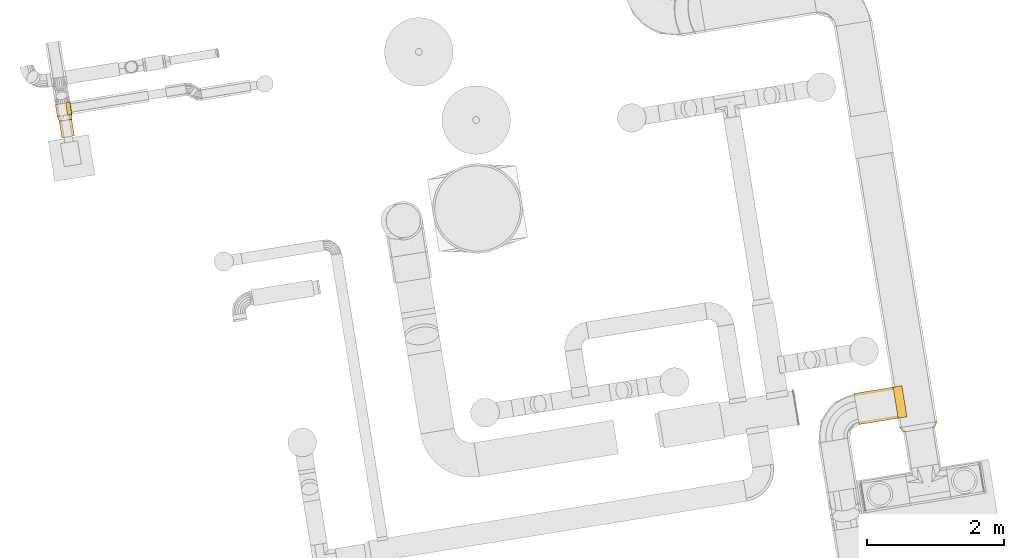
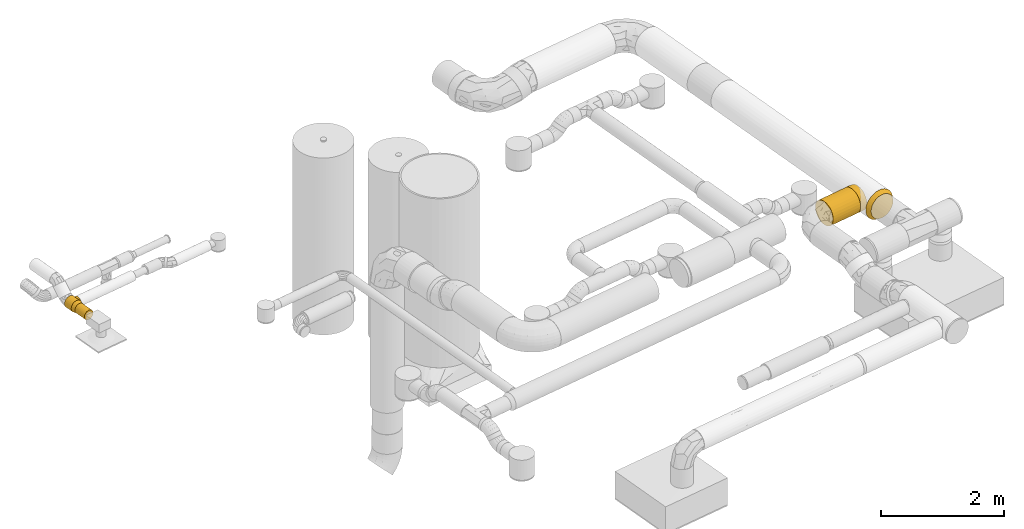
# One storey, part 9 of 39: 7 coverings.
"""IFC2X3 building model written with IfcOpenShell, lengths in millimetres."""

import ifcopenshell
import ifcopenshell.guid

model = None  # the IFC model being written
_history = None  # IfcOwnerHistory: only IFC2X3 demands one
_inside = {}  # id of a spatial element -> (the spatial element, [elements in it])
_under = {}  # id of a project, library or spatial element -> (it, [spatial elements below it])
_declared = {}  # id of a project -> (the project, [libraries it declares])
_typed = {}  # id of a type object -> (the type object, [elements of that type])
_made_of = {}  # id of a material, layer set ... -> (it, [elements and type objects made of it])


def new_model(schema):
    """Start an empty IFC model of exactly this schema.

    Asked for "IFC4X3", IfcOpenShell would pick the latest addendum, in which some entities
    have other attributes; the version numbers below select the first issue.
    IFC2X3 requires an IfcOwnerHistory on every rooted entity: one is made here for all.
    """
    global model, _history
    if schema == "IFC4X3":
        model = ifcopenshell.file(schema_version=(4, 3, 0, 0))
    else:
        model = ifcopenshell.file(schema=schema)
    _inside.clear()
    _under.clear()
    _declared.clear()
    _typed.clear()
    _made_of.clear()
    _history = None
    if model.schema == "IFC2X3":
        org = make("IfcOrganization", Name="unknown")
        user = make(
            "IfcPersonAndOrganization",
            ThePerson=make("IfcPerson", FamilyName="unknown"),
            TheOrganization=org,
        )
        app = make(
            "IfcApplication",
            ApplicationDeveloper=org,
            Version="unknown",
            ApplicationFullName="unknown",
            ApplicationIdentifier="unknown",
        )
        _history = make(
            "IfcOwnerHistory",
            OwningUser=user,
            OwningApplication=app,
            ChangeAction="ADDED",
            CreationDate=0,
        )
    return model


def make(cls, **values):
    """One entity of the class cls with the attributes given. An attribute that is None is left unset."""
    return model.create_entity(
        cls, **{name: value for name, value in values.items() if value is not None}
    )


def entity(cls, *values):
    """Any entity or typed value of the class cls, its attributes in the order of the schema. None: left unset."""
    e = model.create_entity(cls)
    for i, value in enumerate(values):
        if value is not None:
            e[i] = value
    return e


def rooted(cls, **values):
    """An entity with a GlobalId (a new one), such as an element, a storey or a relation."""
    return make(cls, GlobalId=ifcopenshell.guid.new(), OwnerHistory=_history, **values)


def si_unit(unit_type, name, prefix=None):
    """IfcSIUnit, for example si_unit("LENGTHUNIT", "METRE", prefix="MILLI")."""
    return make("IfcSIUnit", UnitType=unit_type, Prefix=prefix, Name=name)


def converted_unit(unit_type, name, factor, base, dimensions=None, offset=None):
    """IfcConversionBasedUnit, such as the inch: factor (a typed value) times the base unit."""
    return make(
        "IfcConversionBasedUnit"
        if offset is None
        else "IfcConversionBasedUnitWithOffset",
        ConversionOffset=offset,
        Dimensions=None
        if dimensions is None
        else entity("IfcDimensionalExponents", *dimensions),
        UnitType=unit_type,
        Name=name,
        ConversionFactor=make(
            "IfcMeasureWithUnit", ValueComponent=factor, UnitComponent=base
        ),
    )


def derived_unit(unit_type, elements):
    """IfcDerivedUnit: a product of units, each with its exponent."""
    return make(
        "IfcDerivedUnit",
        Elements=[
            make("IfcDerivedUnitElement", Unit=unit, Exponent=power)
            for unit, power in elements
        ],
        UnitType=unit_type,
    )


def assignment(units):
    """IfcUnitAssignment: the units of a project."""
    return None if units is None else make("IfcUnitAssignment", Units=units)


def point(xyz):
    """IfcCartesianPoint."""
    return None if xyz is None else make("IfcCartesianPoint", Coordinates=xyz)


def direction(xyz):
    """IfcDirection."""
    return None if xyz is None else make("IfcDirection", DirectionRatios=xyz)


def frame(location, z_axis=None, x_axis=None):
    """IfcAxis2Placement3D, a coordinate frame: its origin and axes. An axis left out is left unset."""
    return make(
        "IfcAxis2Placement3D",
        Location=point(location),
        Axis=direction(z_axis),
        RefDirection=direction(x_axis),
    )


def origin():
    """The frame at (0, 0, 0) with its axes left unset."""
    return frame((0.0, 0.0, 0.0))


def origin_with_axes():
    """The frame at (0, 0, 0) with the z axis (0, 0, 1) and the x axis (1, 0, 0) written out."""
    return frame((0.0, 0.0, 0.0), z_axis=(0.0, 0.0, 1.0), x_axis=(1.0, 0.0, 0.0))


def place(relative_to, where):
    """IfcLocalPlacement: puts the frame where relative to a parent placement (None: the world)."""
    return make(
        "IfcLocalPlacement", PlacementRelTo=relative_to, RelativePlacement=where
    )


def context(
    kind, dimensions, precision=None, world=None, true_north=None, identifier=None
):
    """IfcGeometricRepresentationContext, for example the 3D "Model" context."""
    return make(
        "IfcGeometricRepresentationContext",
        ContextIdentifier=identifier,
        ContextType=kind,
        CoordinateSpaceDimension=dimensions,
        Precision=precision,
        WorldCoordinateSystem=world,
        TrueNorth=true_north,
    )


def subcontext(parent, identifier, kind, view, scale=None):
    """IfcGeometricRepresentationSubContext, for example "Body" below "Model"."""
    return make(
        "IfcGeometricRepresentationSubContext",
        ContextIdentifier=identifier,
        ContextType=kind,
        ParentContext=parent,
        TargetScale=scale,
        TargetView=view,
    )


def project(units=None, contexts=None):
    """IfcProject with its units and contexts."""
    return rooted(
        "IfcProject",
        Name="project",
        RepresentationContexts=contexts,
        UnitsInContext=assignment(units),
    )


def spatial(cls, under=None, at=None, **own):
    """A site, building, storey or space (cls), placed at a placement, below another one or the project."""
    s = rooted(cls, ObjectPlacement=at, **own)
    if under is not None:
        _under.setdefault(under.id(), (under, []))[1].append(s)
    return s


def faces_of(points, faces, orient=None, outer=None):
    """IfcFace entities. A face is a list of loops; a loop is a list of indices into points, from 0.

    orient and outer hold one flag for each loop. By default every Orientation is true, the
    first loop of a face is its IfcFaceOuterBound and the others are IfcFaceBound.
    """
    made = []
    for i, loops in enumerate(faces):
        bounds = []
        for j, loop in enumerate(loops):
            is_outer = j == 0 if outer is None else outer[i][j]
            bounds.append(
                make(
                    "IfcFaceOuterBound" if is_outer else "IfcFaceBound",
                    Bound=make("IfcPolyLoop", Polygon=[points[k] for k in loop]),
                    Orientation=True if orient is None else orient[i][j],
                )
            )
        made.append(make("IfcFace", Bounds=bounds))
    return made


def faceted_brep(points, faces, orient=None, outer=None, voids=None):
    """IfcFacetedBrep: a solid bounded by flat faces; with voids (closed shells), ...WithVoids."""
    shared = [point(p) for p in points]
    hull = make("IfcClosedShell", CfsFaces=faces_of(shared, faces, orient, outer))
    if voids is None:
        return make("IfcFacetedBrep", Outer=hull)
    return make(
        "IfcFacetedBrepWithVoids",
        Outer=hull,
        Voids=[
            make(cls, CfsFaces=faces_of(shared, fs, o, b)) for cls, fs, o, b in voids
        ],
    )


def shape(context_of_items, identifier, shape_type, items):
    """IfcShapeRepresentation: the items that make up one representation, for example the "Body"."""
    return make(
        "IfcShapeRepresentation",
        ContextOfItems=context_of_items,
        RepresentationIdentifier=identifier,
        RepresentationType=shape_type,
        Items=items,
    )


def made_of(thing, what):
    """Note that an element or type object is made of a material, layer set ...; save() writes the relation."""
    if what is not None:
        _made_of.setdefault(what.id(), (what, []))[1].append(thing)
    return thing


def type_object(cls, material=None, **own):
    """A type object (cls), such as IfcWallType, which elements share."""
    return made_of(rooted(cls, **own), material)


def element(
    cls,
    number,
    at=None,
    inside=None,
    cuts=None,
    type_object=None,
    material=None,
    context=None,
    identifier="Body",
    shape_type=None,
    held_by="IfcProductDefinitionShape",
    body=None,
    shapes=None,
    **own,
):
    """One element of the class cls, such as IfcWall. Its Tag is "e" and its number.

    at: its placement. inside: the storey or other place that contains it. cuts: it is an
    opening in that element (IfcRelVoidsElement). A single representation is given by context,
    identifier, shape_type and body (its items); several are given by shapes. held_by: the class
    of the entity that holds the representations. save() writes the other relations.
    """
    e = rooted(cls, Tag="e%d" % number, ObjectPlacement=at, **own)
    if body is not None:
        shapes = [shape(context, identifier, shape_type, body)]
    if shapes is not None:
        e.Representation = make(held_by, Representations=shapes)
    if inside is not None:
        _inside.setdefault(inside.id(), (inside, []))[1].append(e)
    if cuts is not None:
        rooted(
            "IfcRelVoidsElement", RelatingBuildingElement=cuts, RelatedOpeningElement=e
        )
    if type_object is not None:
        _typed.setdefault(type_object.id(), (type_object, []))[1].append(e)
    return made_of(e, material)


def aggregate(whole, parts):
    """IfcRelAggregates: a whole, such as a stair, and the parts it consists of."""
    return rooted("IfcRelAggregates", RelatingObject=whole, RelatedObjects=parts)


def save(model, path):
    """Write the relations noted so far, then the file.

    IfcRelAggregates (storeys below a building ...), IfcRelContainedInSpatialStructure (elements
    in a storey), IfcRelDefinesByType, IfcRelAssociatesMaterial and IfcRelDeclares: one each for
    every whole, place, type object, material and project.
    """
    for whole, parts in _under.values():
        aggregate(whole, parts)
    for where, things in _inside.values():
        rooted(
            "IfcRelContainedInSpatialStructure",
            RelatedElements=things,
            RelatingStructure=where,
        )
    for kind, things in _typed.values():
        rooted("IfcRelDefinesByType", RelatedObjects=things, RelatingType=kind)
    for what, things in _made_of.values():
        rooted("IfcRelAssociatesMaterial", RelatedObjects=things, RelatingMaterial=what)
    for by, libraries in _declared.values():
        rooted("IfcRelDeclares", RelatingContext=by, RelatedDefinitions=libraries)
    model.write(path)


model = new_model("IFC2X3")

# Units and contexts
model_context = context("Model", 3, precision=0.01, world=origin(), true_north=direction((6.12323399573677e-17, 1.0)))
plan_context = context("Plan", 3, precision=1e-05, world=origin_with_axes())
body_context = subcontext(model_context, "Body", "Model", "MODEL_VIEW")
ifc_project = project(units=[converted_unit("PLANEANGLEUNIT", "DEGREE", entity("IfcPositiveLengthMeasure", 0.0174532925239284), si_unit("PLANEANGLEUNIT", "RADIAN"), dimensions=[0, 0, 0, 0, 0, 0, 0]), si_unit("AREAUNIT", "SQUARE_METRE"), si_unit("LENGTHUNIT", "METRE", prefix="MILLI"), si_unit("MASSUNIT", "GRAM", prefix="KILO"), si_unit("POWERUNIT", "WATT"), si_unit("PRESSUREUNIT", "PASCAL", prefix="KILO"), si_unit("FORCEUNIT", "NEWTON", prefix="KILO"), si_unit("ELECTRICVOLTAGEUNIT", "VOLT"), si_unit("ELECTRICCURRENTUNIT", "AMPERE"), si_unit("THERMODYNAMICTEMPERATUREUNIT", "DEGREE_CELSIUS"), si_unit("TIMEUNIT", "SECOND"), si_unit("VOLUMEUNIT", "CUBIC_METRE"), derived_unit("LINEARVELOCITYUNIT", [(si_unit("LENGTHUNIT", "METRE"), 1), (si_unit("TIMEUNIT", "SECOND"), -1)]), derived_unit("VOLUMETRICFLOWRATEUNIT", [(si_unit("VOLUMEUNIT", "CUBIC_METRE"), 1), (si_unit("TIMEUNIT", "SECOND"), -1)]), derived_unit("THERMALTRANSMITTANCEUNIT", [(si_unit("POWERUNIT", "WATT"), 1), (si_unit("THERMODYNAMICTEMPERATUREUNIT", "KELVIN"), -1), (si_unit("AREAUNIT", "SQUARE_METRE"), -1)]), derived_unit("SOUNDPRESSUREUNIT", [(si_unit("PRESSUREUNIT", "PASCAL"), 1)])], contexts=[model_context, plan_context])

# Site, building, storey
site_placement = place(None, frame((-0.00071070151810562, 0.00438415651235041, 0.0), z_axis=(0.0, 0.0, 1.0), x_axis=(-0.160236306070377, 0.987078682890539, 0.0)))
site = spatial("IfcSite", under=ifc_project, at=site_placement, Name="Default", CompositionType="ELEMENT")
building_placement = place(site_placement, origin_with_axes())
building = spatial("IfcBuilding", under=site, at=building_placement, CompositionType="ELEMENT")
storey_placement = place(building_placement, frame((0.0, 0.0, 50999.9999999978), z_axis=(0.0, 0.0, 1.0), x_axis=(1.0, 0.0, 0.0)))
storey = spatial("IfcBuildingStorey", under=building, at=storey_placement, Name="Nivå D", CompositionType="ELEMENT", Elevation=50999.9999999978)

# Coverings
covering_type_1 = type_object("IfcCoveringType", Name="Duct Insulation:MuT030", PredefinedType="INSULATION")
covering_1_placement = place(storey_placement, frame((778933.195372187, -590521.577011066, 3011.59230483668), z_axis=(0.0, 0.0, 1.0), x_axis=(1.0, 0.0, 0.0)))
element("IfcCovering", 1, at=covering_1_placement, inside=storey, type_object=covering_type_1, Name="Duct Insulation:MuT030", ObjectType="Duct Insulation:MuT030", PredefinedType="INSULATION", context=body_context, shape_type="Brep", body=[
    faceted_brep([(0.00055409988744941, 1.59527223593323, -111.595272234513), (0.000697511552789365, 5.34343134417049, -83.1251772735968), (0.000831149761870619, 16.3324778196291, -56.5952722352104), (0.00094590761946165, 33.8135263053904, -33.8135263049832), (0.0010339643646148, 56.5952722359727, -16.3324778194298), (0.00108931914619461, 83.1251772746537, -5.34343134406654), (0.00110819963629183, 111.595272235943, -1.59527223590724), (0.00108931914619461, 140.065367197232, -5.34343134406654), (0.00103396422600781, 166.595272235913, -16.3324778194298), (0.000945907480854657, 189.377018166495, -33.8135263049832), (0.000831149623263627, 206.858066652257, -56.5952722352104), (0.000697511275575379, 217.847113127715, -83.1251772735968), (0.000554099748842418, 221.595272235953, -111.595272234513), (0.000410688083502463, 217.847113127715, -140.06536719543), (0.000277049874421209, 206.858066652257, -166.595272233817), (0.000162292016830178, 189.377018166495, -189.377018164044), (7.42352716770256e-05, 166.595272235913, -206.858066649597), (1.88804900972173e-05, 140.065367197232, -217.84711312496), (0.0, 111.595272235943, -221.59527223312), (1.88804900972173e-05, 83.1251772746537, -217.84711312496), (7.42354102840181e-05, 56.5952722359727, -206.858066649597), (0.000162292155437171, 33.8135263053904, -189.377018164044), (0.000277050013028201, 16.3324778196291, -166.595272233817), (0.000410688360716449, 5.34343134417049, -140.06536719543), (172.763686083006, 5.3434313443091, -140.066237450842), (172.763552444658, 16.3324778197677, -166.596142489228), (172.763437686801, 33.813526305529, -189.377888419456), (172.763349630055, 56.5952722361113, -206.858936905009), (172.763294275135, 83.1251772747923, -217.847983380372), (172.763275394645, 111.595272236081, -221.596142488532), (172.763294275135, 140.065367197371, -217.847983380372), (172.763349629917, 166.595272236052, -206.858936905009), (172.763437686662, 189.377018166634, -189.377888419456), (172.76355244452, 206.858066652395, -166.596142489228), (172.763686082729, 217.847113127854, -140.066237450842), (172.763829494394, 221.595272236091, -111.596142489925), (172.763972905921, 217.847113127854, -83.1260475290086), (172.764106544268, 206.858066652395, -56.5961424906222), (172.764221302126, 189.377018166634, -33.8143965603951), (172.764309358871, 166.595272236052, -16.3333480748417), (172.764364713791, 140.065367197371, -5.34430159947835), (172.764383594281, 111.595272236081, -1.59614249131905), (172.764364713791, 83.1251772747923, -5.34430159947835), (172.76430935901, 56.5952722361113, -16.3333480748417), (172.764221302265, 33.813526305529, -33.8143965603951), (172.764106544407, 16.3324778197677, -56.5961424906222), (172.763972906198, 5.3434313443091, -83.1260475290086), (172.763829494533, 1.59527223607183, -111.596142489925)], [[[0, 1, 2, 3, 4, 5, 6, 7, 8, 9, 10, 11, 12, 13, 14, 15, 16, 17, 18, 19, 20, 21, 22, 23]], [[24, 25, 26, 27, 28, 29, 30, 31, 32, 33, 34, 35, 36, 37, 38, 39, 40, 41, 42, 43, 44, 45, 46, 47]], [[34, 33, 14, 13]], [[35, 34, 13, 12]], [[33, 32, 15, 14]], [[17, 16, 31, 30]], [[18, 17, 30, 29]], [[32, 31, 16, 15]], [[19, 18, 29, 28]], [[20, 19, 28, 27]], [[27, 26, 21, 20]], [[23, 22, 25, 24]], [[0, 23, 24, 47]], [[26, 25, 22, 21]], [[1, 0, 47, 46]], [[2, 1, 46, 45]], [[45, 44, 3, 2]], [[5, 4, 43, 42]], [[6, 5, 42, 41]], [[44, 43, 4, 3]], [[7, 6, 41, 40]], [[8, 7, 40, 39]], [[39, 38, 9, 8]], [[11, 10, 37, 36]], [[12, 11, 36, 35]], [[38, 37, 10, 9]]]),
])
covering_2_placement = place(storey_placement, frame((778930.170701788, -590514.982444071, 2994.09607287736), z_axis=(0.0, 0.0, 1.0), x_axis=(1.0, 0.0, 0.0)))
element("IfcCovering", 2, at=covering_2_placement, inside=storey, type_object=covering_type_1, Name="Duct Insulation:MuT030", ObjectType="Duct Insulation:MuT030", PredefinedType="INSULATION", context=body_context, shape_type="Brep", body=[
    faceted_brep([(174.202622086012, 61.1643619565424, -47.845738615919), (183.443411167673, 61.164191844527, -70.1549769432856), (186.595272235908, 61.1640092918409, -94.09573861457), (183.443411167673, 61.1638267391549, -118.036500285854), (174.202622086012, 61.1636566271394, -140.345738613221), (159.502649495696, 61.1635105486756, -159.503115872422), (140.345272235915, 61.1633984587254, -174.203088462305), (118.036033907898, 61.1633279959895, -183.443877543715), (94.0952722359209, 61.1633039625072, -186.595738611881), (70.1545105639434, 61.1633279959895, -183.443877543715), (47.845272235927, 61.1633984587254, -174.203088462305), (28.687894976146, 61.1635105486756, -159.503115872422), (13.9879223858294, 61.1636566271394, -140.34573861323), (4.74713330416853, 61.1638267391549, -118.036500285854), (1.59527223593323, 61.1640092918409, -94.09573861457), (4.74713330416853, 61.164191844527, -70.1549769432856), (13.9879223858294, 61.1643619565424, -47.845738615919), (28.687894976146, 61.1645080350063, -28.6883613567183), (47.845272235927, 61.1646201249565, -13.9883887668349), (70.1545105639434, 61.1646905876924, -4.74759968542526), (94.0952722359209, 61.1647146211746, -1.59573861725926), (118.036033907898, 61.1646905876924, -4.74759968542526), (140.345272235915, 61.1646201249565, -13.9883887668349), (159.502649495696, 61.1645080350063, -28.6883613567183), (94.0952722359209, 0.0, -186.595272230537), (118.036033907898, 2.40334822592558e-05, -183.443411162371), (140.345272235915, 9.44962181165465e-05, -174.202622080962), (159.502649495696, 0.00020658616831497, -159.502649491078), (174.202622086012, 0.00035266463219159, -140.345272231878), (183.443411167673, 0.000522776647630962, -118.036033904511), (186.595272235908, 0.000705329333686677, -94.0952722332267), (183.443411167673, 0.000887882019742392, -70.1545105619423), (174.202622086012, 0.00105799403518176, -47.8452722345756), (159.502649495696, 0.00120407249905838, -28.687894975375), (140.345272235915, 0.00131616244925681, -13.9879223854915), (118.036033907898, 0.0013866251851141, -4.7471333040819), (94.0952722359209, 0.00141065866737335, -1.5952722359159), (70.1545105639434, 0.0013866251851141, -4.7471333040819), (47.845272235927, 0.00131616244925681, -13.9879223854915), (28.687894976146, 0.00120407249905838, -28.687894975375), (13.9879223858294, 0.00105799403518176, -47.8452722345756), (4.74713330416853, 0.000887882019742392, -70.1545105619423), (1.59527223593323, 0.000705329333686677, -94.0952722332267), (4.74713330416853, 0.000522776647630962, -118.036033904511), (13.9879223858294, 0.00035266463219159, -140.345272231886), (28.687894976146, 0.00020658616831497, -159.502649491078), (47.845272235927, 9.44962181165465e-05, -174.202622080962), (70.1545105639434, 2.40334822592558e-05, -183.443411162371)], [[[0, 1, 2, 3, 4, 5, 6, 7, 8, 9, 10, 11, 12, 13, 14, 15, 16, 17, 18, 19, 20, 21, 22, 23]], [[24, 25, 26, 27, 28, 29, 30, 31, 32, 33, 34, 35, 36, 37, 38, 39, 40, 41, 42, 43, 44, 45, 46, 47]], [[30, 29, 3, 2]], [[28, 4, 3, 29]], [[5, 4, 28, 27]], [[6, 26, 25, 7]], [[7, 25, 24, 8]], [[5, 27, 26, 6]], [[9, 8, 24, 47]], [[10, 9, 47, 46]], [[10, 46, 45, 11]], [[12, 44, 43, 13]], [[13, 43, 42, 14]], [[11, 45, 44, 12]], [[15, 14, 42, 41]], [[17, 16, 40, 39]], [[16, 15, 41, 40]], [[18, 38, 37, 19]], [[19, 37, 36, 20]], [[17, 39, 38, 18]], [[36, 35, 21, 20]], [[23, 22, 34, 33]], [[34, 22, 21, 35]], [[0, 32, 31, 1]], [[1, 31, 30, 2]], [[23, 33, 32, 0]]]),
])
covering_3_placement = place(storey_placement, frame((778615.118793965, -590504.077011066, 2994.09527223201), z_axis=(0.0, 0.0, 1.0), x_axis=(1.0, 0.0, 0.0)))
element("IfcCovering", 3, at=covering_3_placement, inside=storey, type_object=covering_type_1, Name="Duct Insulation:MuT030", ObjectType="Duct Insulation:MuT030", PredefinedType="INSULATION", context=body_context, shape_type="Brep", body=[
    faceted_brep([(0.000248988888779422, 28.687894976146, -159.502649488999), (0.000425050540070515, 13.9879223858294, -140.34527223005), (0.000630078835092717, 4.74713330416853, -118.036033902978), (0.00085010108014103, 1.59527223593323, -94.0952722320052), (0.00107012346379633, 4.74713330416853, -70.1545105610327), (0.00127515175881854, 13.9879223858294, -47.8452722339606), (0.00145121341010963, 28.687894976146, -28.6878949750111), (0.00158631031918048, 47.845272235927, -13.9879223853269), (0.00167123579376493, 70.1545105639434, -4.74713330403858), (0.00170020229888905, 94.0952722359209, -1.5952722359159), (0.00167123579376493, 118.036033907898, -4.74713330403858), (0.00158631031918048, 140.345272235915, -13.9879223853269), (0.00145121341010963, 159.502649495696, -28.6878949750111), (0.00127515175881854, 174.202622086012, -47.8452722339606), (0.00107012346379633, 183.443411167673, -70.1545105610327), (0.00085010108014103, 186.595272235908, -94.0952722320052), (0.000630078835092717, 183.443411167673, -118.036033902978), (0.000425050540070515, 174.202622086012, -140.34527223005), (0.000248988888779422, 159.502649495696, -159.502649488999), (0.000113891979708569, 140.345272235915, -174.202622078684), (2.89665051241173e-05, 118.036033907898, -183.443411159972), (0.0, 94.0952722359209, -186.595272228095), (2.89665051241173e-05, 70.1545105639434, -183.443411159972), (0.000113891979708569, 47.845272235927, -174.202622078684), (243.076912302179, 4.74713330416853, -118.038267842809), (243.076707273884, 13.9879223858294, -140.347506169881), (243.076531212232, 28.687894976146, -159.504883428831), (243.076396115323, 47.845272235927, -174.204856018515), (243.076311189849, 70.1545105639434, -183.445645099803), (243.076282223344, 94.0952722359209, -186.597506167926), (243.076311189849, 118.036033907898, -183.445645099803), (243.076396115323, 140.345272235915, -174.204856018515), (243.076531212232, 159.502649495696, -159.504883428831), (243.076707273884, 174.202622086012, -140.347506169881), (243.076912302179, 183.443411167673, -118.038267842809), (243.077132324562, 186.595272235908, -94.0975061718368), (243.077352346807, 183.443411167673, -70.1567445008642), (243.077557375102, 174.202622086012, -47.8475061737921), (243.077733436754, 159.502649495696, -28.6901289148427), (243.077868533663, 140.345272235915, -13.9901563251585), (243.077953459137, 118.036033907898, -4.74936724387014), (243.077982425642, 94.0952722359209, -1.59750617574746), (243.077953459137, 70.1545105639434, -4.74936724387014), (243.077868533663, 47.845272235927, -13.9901563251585), (243.077733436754, 28.687894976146, -28.6901289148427), (243.077557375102, 13.9879223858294, -47.8475061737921), (243.077352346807, 4.74713330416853, -70.1567445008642), (243.077132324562, 1.59527223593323, -94.0975061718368)], [[[0, 1, 2, 3, 4, 5, 6, 7, 8, 9, 10, 11, 12, 13, 14, 15, 16, 17, 18, 19, 20, 21, 22, 23]], [[24, 25, 26, 27, 28, 29, 30, 31, 32, 33, 34, 35, 36, 37, 38, 39, 40, 41, 42, 43, 44, 45, 46, 47]], [[34, 33, 17, 16]], [[35, 34, 16, 15]], [[33, 32, 18, 17]], [[20, 19, 31, 30]], [[21, 20, 30, 29]], [[32, 31, 19, 18]], [[22, 21, 29, 28]], [[23, 22, 28, 27]], [[27, 26, 0, 23]], [[2, 1, 25, 24]], [[3, 2, 24, 47]], [[26, 25, 1, 0]], [[4, 3, 47, 46]], [[5, 4, 46, 45]], [[45, 44, 6, 5]], [[8, 7, 43, 42]], [[9, 8, 42, 41]], [[44, 43, 7, 6]], [[10, 9, 41, 40]], [[11, 10, 40, 39]], [[39, 38, 12, 11]], [[14, 13, 37, 36]], [[15, 14, 36, 35]], [[38, 37, 13, 12]]]),
])
covering_4_placement = place(storey_placement, frame((778858.195076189, -590521.577011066, 3011.59230483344), z_axis=(0.0, 0.0, 1.0), x_axis=(1.0, 0.0, 0.0)))
element("IfcCovering", 4, at=covering_4_placement, inside=storey, type_object=covering_type_1, Name="Duct Insulation:MuT030", ObjectType="Duct Insulation:MuT030", PredefinedType="INSULATION", context=body_context, shape_type="Brep", body=[
    faceted_brep([(75.0018115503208, 77.6034028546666, -6.97905544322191), (75.0016679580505, 46.9388944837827, -22.6034028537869), (75.0014443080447, 22.6034028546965, -46.9388944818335), (75.0011624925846, 6.97905544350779, -77.6034028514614), (75.0008500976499, 1.59527223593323, -111.595272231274), (75.0005377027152, 6.97905544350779, -145.587141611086), (75.0002558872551, 22.6034028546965, -176.251649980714), (75.0000322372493, 46.9388944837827, -200.58714160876), (74.999888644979, 77.6034028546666, -216.211489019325), (74.9998391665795, 111.595272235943, -221.595272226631), (74.999888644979, 145.587141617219, -216.211489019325), (75.0000322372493, 176.251649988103, -200.58714160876), (75.0002558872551, 200.587141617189, -176.251649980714), (75.0005377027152, 216.211489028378, -145.587141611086), (75.0008500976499, 221.595272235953, -111.595272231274), (75.0011624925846, 216.211489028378, -77.6034028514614), (75.0014443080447, 200.587141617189, -46.9388944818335), (75.0016679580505, 176.251649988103, -22.6034028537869), (75.0018115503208, 145.587141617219, -6.97905544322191), (75.0018610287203, 111.595272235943, -1.5952722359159), (0.00170020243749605, 111.595272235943, -19.0945387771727), (0.00165859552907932, 140.179344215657, -23.6218110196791), (0.00153784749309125, 165.965408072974, -36.7604667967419), (0.00134977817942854, 186.429344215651, -57.2244029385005), (0.00111279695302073, 199.567999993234, -83.0104667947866), (0.000850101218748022, 204.095272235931, -111.594538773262), (0.000587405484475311, 199.567999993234, -140.178610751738), (0.000350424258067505, 186.429344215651, -165.964674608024), (0.000162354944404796, 165.965408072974, -186.428610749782), (4.16069084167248e-05, 140.179344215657, -199.567266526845), (0.0, 111.595272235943, -204.09453876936), (4.16069084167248e-05, 83.0112002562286, -199.567266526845), (0.000162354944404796, 57.2251363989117, -186.428610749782), (0.000350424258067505, 36.7612002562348, -165.964674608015), (0.000587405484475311, 23.6225444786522, -140.178610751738), (0.000850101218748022, 19.0952722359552, -111.594538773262), (0.00111279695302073, 23.6225444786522, -83.0104667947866), (0.00134977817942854, 36.7612002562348, -57.2244029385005), (0.00153784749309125, 57.2251363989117, -36.7604667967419), (0.00165859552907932, 83.0112002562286, -23.6218110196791), (37.5001928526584, 40.0007109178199, -183.189467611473), (37.5004243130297, 21.3808641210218, -157.561446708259), (37.5005884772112, 14.0947130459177, -138.893311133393), (48.0562206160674, 7.88235244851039, -111.595008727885), (26.9454799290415, 12.8081919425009, -111.594802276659), (37.5000206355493, 65.6287347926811, -201.809316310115), (37.4999540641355, 84.2968703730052, -209.095468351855), (26.9445783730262, 111.595272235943, -210.381884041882), (48.0552674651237, 111.595272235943, -215.307928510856), (37.5001928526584, 183.189834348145, -183.189466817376), (37.5000176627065, 157.561813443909, -201.809313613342), (37.4999432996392, 138.893677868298, -209.095464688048), (37.5004272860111, 201.809683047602, -157.561442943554), (37.5005992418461, 209.095835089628, -138.893307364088), (26.9454686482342, 210.382349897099, -111.594802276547), (48.0562181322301, 215.308191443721, -111.59500872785), (37.5015088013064, 183.189833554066, -40.0003433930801), (37.5012692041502, 201.809680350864, -65.628364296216), (37.5010902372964, 209.095831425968, -84.2964998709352), (37.5016788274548, 157.561809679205, -21.3804946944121), (37.5017461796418, 138.893674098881, -14.0943426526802), (26.9463878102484, 111.595272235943, -12.8077219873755), (48.0571712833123, 111.595272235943, -7.88208952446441), (37.5015088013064, 40.0007101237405, -40.0003441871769), (37.501675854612, 65.6287310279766, -21.3804973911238), (37.501735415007, 84.296866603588, -14.0943463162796), (37.501272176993, 21.3808614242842, -65.6283680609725), (37.5011010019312, 14.0947093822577, -84.2965036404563)], [[[0, 1, 2, 3, 4, 5, 6, 7, 8, 9, 10, 11, 12, 13, 14, 15, 16, 17, 18, 19]], [[20, 21, 22, 23, 24, 25, 26, 27, 28, 29, 30, 31, 32, 33, 34, 35, 36, 37, 38, 39]], [[40, 41, 33]], [[41, 40, 6]], [[34, 33, 41]], [[42, 41, 5]], [[5, 41, 6]], [[41, 42, 34]], [[4, 43, 44, 35, 42]], [[34, 42, 35]], [[40, 7, 6]], [[45, 31, 46]], [[45, 32, 31]], [[32, 40, 33]], [[30, 46, 31]], [[9, 8, 46]], [[7, 40, 45]], [[4, 42, 5]], [[30, 47, 48, 9, 46]], [[46, 8, 45]], [[40, 32, 45]], [[7, 45, 8]], [[49, 50, 28]], [[50, 49, 11]], [[29, 28, 50]], [[51, 50, 10]], [[10, 50, 11]], [[50, 51, 29]], [[9, 48, 47, 30, 51]], [[29, 51, 30]], [[49, 12, 11]], [[52, 26, 53]], [[52, 27, 26]], [[27, 49, 28]], [[25, 53, 26]], [[14, 13, 53]], [[12, 49, 52]], [[9, 51, 10]], [[25, 54, 55, 14, 53]], [[53, 13, 52]], [[49, 27, 52]], [[12, 52, 13]], [[56, 57, 23]], [[57, 56, 16]], [[24, 23, 57]], [[58, 57, 15]], [[15, 57, 16]], [[57, 58, 24]], [[14, 55, 54, 25, 58]], [[24, 58, 25]], [[56, 17, 16]], [[59, 21, 60]], [[59, 22, 21]], [[22, 56, 23]], [[20, 60, 21]], [[19, 18, 60]], [[17, 56, 59]], [[14, 58, 15]], [[20, 61, 62, 19, 60]], [[60, 18, 59]], [[56, 22, 59]], [[17, 59, 18]], [[63, 64, 38]], [[64, 63, 1]], [[39, 38, 64]], [[65, 64, 0]], [[0, 64, 1]], [[64, 65, 39]], [[19, 62, 61, 20, 65]], [[39, 65, 20]], [[63, 2, 1]], [[66, 36, 67]], [[66, 37, 36]], [[37, 63, 38]], [[35, 67, 36]], [[4, 3, 67]], [[2, 63, 66]], [[19, 65, 0]], [[35, 44, 43, 4, 67]], [[67, 3, 66]], [[63, 37, 66]], [[2, 66, 3]]]),
])
covering_type_2 = type_object("IfcCoveringType", Name="Duct Insulation:EI 60-30", PredefinedType="INSULATION")
covering_5_placement = place(storey_placement, frame((772411.932124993, -602254.500350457, 3018.40472776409), z_axis=(0.0, 0.0, 1.0), x_axis=(1.0, 0.0, 0.0)))
element("IfcCovering", 5, at=covering_5_placement, inside=storey, type_object=covering_type_2, Name="Duct Insulation:EI 60-30", ObjectType="Duct Insulation:EI 60-30", PredefinedType="INSULATION", context=body_context, shape_type="Brep", body=[
    faceted_brep([(75.0, 174.443911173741, 540.281541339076), (75.0, 126.035606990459, 514.406763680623), (75.0, 83.6053735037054, 479.585170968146), (75.0, 48.7837807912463, 437.154937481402), (75.0, 22.9090031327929, 388.746633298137), (75.0, 6.97539372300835, 336.220562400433), (75.0, 1.59527223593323, 281.595272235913), (75.0, 6.97539372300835, 226.969982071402), (75.0, 22.9090031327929, 174.443911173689), (75.0, 48.7837807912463, 126.035606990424), (75.0, 83.6053735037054, 83.6053735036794), (75.0, 126.035606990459, 48.783780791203), (75.0, 174.443911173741, 22.9090031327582), (75.0, 226.969982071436, 6.97539372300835), (75.0, 281.595272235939, 1.5952722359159), (75.0, 336.220562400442, 6.97539372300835), (75.0, 388.746633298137, 22.9090031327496), (75.0, 437.154937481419, 48.783780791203), (75.0, 479.585170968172, 83.6053735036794), (75.0, 514.406763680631, 126.035606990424), (75.0, 540.281541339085, 174.443911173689), (75.0, 556.215150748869, 226.969982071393), (75.0, 561.595272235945, 281.595272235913), (75.0, 556.215150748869, 336.220562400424), (75.0, 540.281541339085, 388.746633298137), (75.0, 514.406763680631, 437.154937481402), (75.0, 479.585170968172, 479.585170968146), (75.0, 437.154937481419, 514.406763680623), (75.0, 388.746633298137, 540.281541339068), (75.0, 336.220562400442, 556.215150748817), (75.0, 281.595272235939, 561.59527223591), (75.0, 226.969982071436, 556.215150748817), (0.0, 281.595272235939, 511.595272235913), (0.0, 332.775087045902, 505.82869203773), (0.0, 381.388532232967, 488.818111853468), (0.0, 424.99792666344, 461.416513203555), (0.0, 461.416513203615, 424.997926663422), (0.0, 488.818111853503, 381.38853223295), (0.0, 505.828692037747, 332.775087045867), (0.0, 511.595272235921, 281.595272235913), (0.0, 505.828692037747, 230.415457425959), (0.0, 488.818111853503, 181.802012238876), (0.0, 461.416513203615, 138.192617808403), (0.0, 424.99792666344, 101.774031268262), (0.0, 381.388532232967, 74.3724326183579), (0.0, 332.775087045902, 57.3618524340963), (0.0, 281.595272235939, 51.5952722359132), (0.0, 230.415457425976, 57.3618524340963), (0.0, 181.802012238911, 74.3724326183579), (0.0, 138.192617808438, 101.774031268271), (0.0, 101.774031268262, 138.192617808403), (0.0, 74.3724326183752, 181.802012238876), (0.0, 57.3618524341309, 230.415457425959), (0.0, 51.5952722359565, 281.595272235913), (0.0, 57.3618524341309, 332.775087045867), (0.0, 74.3724326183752, 381.38853223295), (0.0, 101.774031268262, 424.997926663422), (0.0, 138.192617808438, 461.416513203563), (0.0, 181.802012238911, 488.818111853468), (0.0, 230.415457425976, 505.82869203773)], [[[0, 1, 2, 3, 4, 5, 6, 7, 8, 9, 10, 11, 12, 13, 14, 15, 16, 17, 18, 19, 20, 21, 22, 23, 24, 25, 26, 27, 28, 29, 30, 31]], [[32, 33, 34, 35, 36, 37, 38, 39, 40, 41, 42, 43, 44, 45, 46, 47, 48, 49, 50, 51, 52, 53, 54, 55, 56, 57, 58, 59]], [[7, 53, 52]], [[52, 51, 8]], [[50, 9, 51]], [[6, 53, 7]], [[8, 7, 52]], [[9, 8, 51]], [[50, 10, 9]], [[11, 49, 48]], [[12, 48, 47]], [[13, 47, 46]], [[11, 10, 49]], [[47, 13, 12]], [[12, 11, 48]], [[14, 13, 46]], [[49, 10, 50]], [[15, 46, 45]], [[45, 44, 16]], [[43, 17, 44]], [[14, 46, 15]], [[16, 15, 45]], [[17, 16, 44]], [[43, 18, 17]], [[19, 42, 41]], [[20, 41, 40]], [[21, 40, 39]], [[19, 18, 42]], [[40, 21, 20]], [[20, 19, 41]], [[22, 21, 39]], [[42, 18, 43]], [[23, 39, 38]], [[38, 37, 24]], [[36, 25, 37]], [[22, 39, 23]], [[24, 23, 38]], [[25, 24, 37]], [[36, 26, 25]], [[27, 35, 34]], [[28, 34, 33]], [[29, 33, 32]], [[27, 26, 35]], [[33, 29, 28]], [[28, 27, 34]], [[30, 29, 32]], [[35, 26, 36]], [[31, 32, 59]], [[59, 58, 0]], [[57, 1, 58]], [[30, 32, 31]], [[0, 31, 59]], [[1, 0, 58]], [[57, 2, 1]], [[3, 56, 55]], [[4, 55, 54]], [[5, 54, 53]], [[3, 2, 56]], [[54, 5, 4]], [[4, 3, 55]], [[6, 5, 53]], [[56, 2, 57]]]),
])
covering_6_placement = place(storey_placement, frame((772623.237380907, -601697.905078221, 3068.40472776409), z_axis=(0.0, 0.0, 1.0), x_axis=(1.0, 0.0, 0.0)))
element("IfcCovering", 6, at=covering_6_placement, inside=storey, type_object=covering_type_2, Name="Duct Insulation:EI 60-30", ObjectType="Duct Insulation:EI 60-30", PredefinedType="INSULATION", context=body_context, shape_type="Brep", body=[
    faceted_brep([(131.802012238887, 0.0, 24.3724326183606), (180.415457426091, 0.0, 7.36185243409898), (231.595272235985, 0.0, 1.5952722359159), (282.775087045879, 0.0, 7.36185243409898), (331.388532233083, 0.0, 24.3724326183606), (374.997926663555, 0.0, 51.774031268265), (411.416513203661, 0.0, 88.1926178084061), (438.818111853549, 0.0, 131.802012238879), (455.828692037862, 0.0, 180.415457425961), (461.595272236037, 0.0, 231.595272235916), (455.828692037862, 0.0, 282.77508704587), (438.818111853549, 0.0, 331.388532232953), (411.416513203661, 0.0, 374.997926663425), (374.997926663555, 0.0, 411.416513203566), (331.388532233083, 0.0, 438.818111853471), (282.775087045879, 0.0, 455.828692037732), (231.595272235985, 0.0, 461.595272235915), (180.415457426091, 0.0, 455.828692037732), (131.802012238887, 0.0, 438.818111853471), (88.1926178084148, 0.0, 411.416513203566), (51.7740312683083, 0.0, 374.997926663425), (24.3724326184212, 0.0, 331.388532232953), (7.36185243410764, 0.0, 282.77508704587), (1.59527223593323, 0.0, 231.595272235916), (7.36185243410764, 0.0, 180.415457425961), (24.3724326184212, 0.0, 131.802012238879), (51.7740312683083, 0.0, 88.1926178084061), (88.1926178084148, 0.0, 51.774031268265), (51.7740312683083, 575.0, 88.1926178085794), (24.3724326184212, 575.0, 131.802012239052), (7.36185243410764, 575.0, 180.415457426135), (1.59527223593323, 575.0, 231.595272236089), (7.36185243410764, 575.0, 282.775087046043), (24.3724326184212, 575.0, 331.388532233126), (51.7740312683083, 575.0, 374.997926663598), (88.1926178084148, 575.0, 411.416513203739), (131.802012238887, 575.0, 438.818111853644), (180.415457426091, 575.0, 455.828692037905), (231.595272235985, 575.0, 461.595272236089), (282.775087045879, 575.0, 455.828692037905), (331.388532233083, 575.0, 438.818111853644), (374.997926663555, 575.0, 411.416513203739), (411.416513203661, 575.0, 374.997926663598), (438.818111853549, 575.0, 331.388532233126), (455.828692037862, 575.0, 282.775087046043), (461.595272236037, 575.0, 231.595272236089), (455.828692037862, 575.0, 180.415457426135), (438.818111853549, 575.0, 131.802012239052), (411.416513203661, 575.0, 88.1926178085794), (374.997926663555, 575.0, 51.7740312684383), (331.388532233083, 575.0, 24.3724326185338), (282.775087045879, 575.0, 7.36185243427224), (231.595272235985, 575.0, 1.59527223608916), (180.415457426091, 575.0, 7.36185243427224), (131.802012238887, 575.0, 24.3724326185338), (88.1926178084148, 575.0, 51.7740312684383)], [[[0, 1, 2, 3, 4, 5, 6, 7, 8, 9, 10, 11, 12, 13, 14, 15, 16, 17, 18, 19, 20, 21, 22, 23, 24, 25, 26, 27]], [[28, 29, 30, 31, 32, 33, 34, 35, 36, 37, 38, 39, 40, 41, 42, 43, 44, 45, 46, 47, 48, 49, 50, 51, 52, 53, 54, 55]], [[31, 30, 24, 23]], [[30, 29, 25, 24]], [[26, 25, 29, 28]], [[28, 55, 27, 26]], [[0, 27, 55, 54]], [[1, 0, 54, 53]], [[2, 1, 53, 52]], [[3, 2, 52, 51]], [[4, 3, 51, 50]], [[5, 4, 50, 49]], [[49, 48, 6, 5]], [[7, 6, 48, 47]], [[8, 7, 47, 46]], [[9, 8, 46, 45]], [[10, 9, 45, 44]], [[11, 10, 44, 43]], [[12, 11, 43, 42]], [[42, 41, 13, 12]], [[14, 13, 41, 40]], [[15, 14, 40, 39]], [[16, 15, 39, 38]], [[17, 16, 38, 37]], [[18, 17, 37, 36]], [[19, 18, 36, 35]], [[35, 34, 20, 19]], [[21, 20, 34, 33]], [[22, 21, 33, 32]], [[23, 22, 32, 31]]]),
])
covering_7_placement = place(storey_placement, frame((772623.237380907, -601829.001078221, 3068.40472776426), z_axis=(0.0, 0.0, 1.0), x_axis=(1.0, 0.0, 0.0)))
element("IfcCovering", 7, at=covering_7_placement, inside=storey, type_object=covering_type_2, Name="Duct Insulation:EI 60-30", ObjectType="Duct Insulation:EI 60-30", PredefinedType="INSULATION", context=body_context, shape_type="Brep", body=[
    faceted_brep([(131.802012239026, 0.0, 438.818111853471), (88.1926178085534, 0.0, 411.416513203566), (51.7740312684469, 0.0, 374.997926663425), (24.3724326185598, 0.0, 331.388532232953), (7.36185243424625, 0.0, 282.77508704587), (1.59527223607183, 0.0, 231.595272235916), (7.36185243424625, 0.0, 180.415457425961), (24.3724326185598, 0.0, 131.802012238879), (51.7740312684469, 0.0, 88.1926178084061), (88.1926178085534, 0.0, 51.774031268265), (131.802012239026, 0.0, 24.3724326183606), (180.415457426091, 0.0, 7.36185243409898), (231.595272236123, 0.0, 1.5952722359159), (282.775087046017, 0.0, 7.36185243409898), (331.388532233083, 0.0, 24.3724326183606), (374.997926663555, 0.0, 51.774031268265), (411.416513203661, 0.0, 88.1926178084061), (438.818111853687, 0.0, 131.802012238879), (455.828692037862, 0.0, 180.415457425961), (461.595272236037, 0.0, 231.595272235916), (455.828692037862, 0.0, 282.77508704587), (438.818111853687, 0.0, 331.388532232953), (411.416513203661, 0.0, 374.997926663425), (374.997926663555, 0.0, 411.416513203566), (331.388532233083, 0.0, 438.818111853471), (282.775087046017, 0.0, 455.828692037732), (231.595272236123, 0.0, 461.595272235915), (180.415457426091, 0.0, 455.828692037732), (231.595272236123, 131.095999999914, 1.5952722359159), (180.415457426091, 131.095999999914, 7.36185243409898), (131.802012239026, 131.095999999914, 24.3724326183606), (88.1926178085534, 131.095999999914, 51.774031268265), (51.7740312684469, 131.095999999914, 88.1926178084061), (24.3724326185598, 131.095999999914, 131.802012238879), (7.36185243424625, 131.095999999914, 180.415457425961), (1.59527223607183, 131.095999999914, 231.595272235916), (7.36185243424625, 131.095999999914, 282.77508704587), (24.3724326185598, 131.095999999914, 331.388532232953), (51.7740312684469, 131.095999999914, 374.997926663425), (88.1926178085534, 131.095999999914, 411.416513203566), (131.802012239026, 131.095999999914, 438.818111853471), (180.415457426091, 131.095999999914, 455.828692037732), (231.595272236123, 131.095999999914, 461.595272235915), (282.775087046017, 131.095999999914, 455.828692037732), (331.388532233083, 131.095999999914, 438.818111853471), (374.997926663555, 131.095999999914, 411.416513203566), (411.416513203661, 131.095999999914, 374.997926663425), (438.818111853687, 131.095999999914, 331.388532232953), (455.828692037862, 131.095999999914, 282.77508704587), (461.595272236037, 131.095999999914, 231.595272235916), (455.828692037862, 131.095999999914, 180.415457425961), (438.818111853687, 131.095999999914, 131.802012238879), (411.416513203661, 131.095999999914, 88.1926178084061), (374.997926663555, 131.095999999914, 51.774031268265), (331.388532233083, 131.095999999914, 24.3724326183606), (282.775087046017, 131.095999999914, 7.36185243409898)], [[[0, 1, 2, 3, 4, 5, 6, 7, 8, 9, 10, 11, 12, 13, 14, 15, 16, 17, 18, 19, 20, 21, 22, 23, 24, 25, 26, 27]], [[28, 29, 30, 31, 32, 33, 34, 35, 36, 37, 38, 39, 40, 41, 42, 43, 44, 45, 46, 47, 48, 49, 50, 51, 52, 53, 54, 55]], [[6, 5, 35, 34]], [[33, 32, 8, 7]], [[7, 6, 34, 33]], [[32, 31, 9, 8]], [[9, 31, 30, 10]], [[10, 30, 29, 11]], [[11, 29, 28, 12]], [[28, 55, 13, 12]], [[55, 54, 14, 13]], [[14, 54, 53, 15]], [[53, 52, 16, 15]], [[16, 52, 51, 17]], [[17, 51, 50, 18]], [[18, 50, 49, 19]], [[19, 49, 48, 20]], [[20, 48, 47, 21]], [[21, 47, 46, 22]], [[46, 45, 23, 22]], [[23, 45, 44, 24]], [[24, 44, 43, 25]], [[25, 43, 42, 26]], [[26, 42, 41, 27]], [[27, 41, 40, 0]], [[0, 40, 39, 1]], [[39, 38, 2, 1]], [[2, 38, 37, 3]], [[3, 37, 36, 4]], [[4, 36, 35, 5]]]),
])

save(model, "model.ifc")
